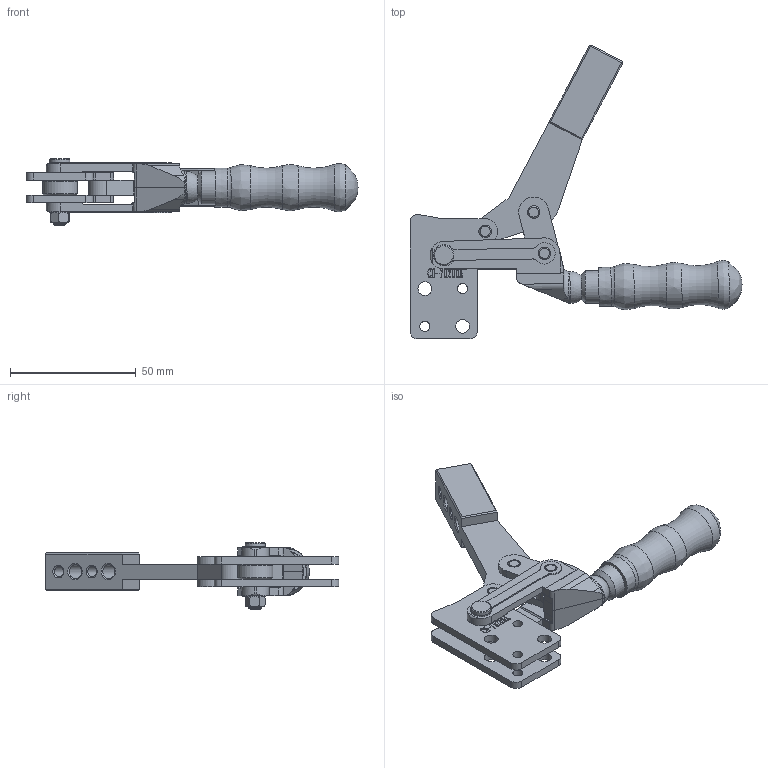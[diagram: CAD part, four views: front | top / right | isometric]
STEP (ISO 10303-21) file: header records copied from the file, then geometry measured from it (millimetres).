
FILE_DESCRIPTION(/* description */ ('STEP AP203'),/* implementation_level */ '2;1');
FILE_NAME(/* name */ 'E:\CAD_CLAMPS\Heavy duty weldables\CH-70200A_DODAC\CH-70200A_OTWARTY.stp',/* time_stamp */ '2019-03-11T14:19:23+01:00',/* author */ ('Admin'),/* organization */ ('Î¢ÈíÖÐ¹ú'),/* preprocessor_version */ 'ST-DEVELOPER v17.2',/* originating_system */ 'Autodesk Inventor 2019',/* authorisation */ '');
FILE_SCHEMA (('AUTOMOTIVE_DESIGN { 1 0 10303 214 3 1 1 }'));
Products named in the file (13): CH-70200A_OTWARTY; µ××ù·´_Ä¬ÈÏ; ÂÝ¸Ë_Ä¬ÈÏ; ³¤Öá_Ä¬ÈÏ; m5ÂÝÄ¸_Ä¬ÈÏ; Ñ¹°Ñ_Ä¬ÈÏ; ÊÖ±ú_Ä¬ÈÏ; ÊÖ±úÌ×_Ä¬ÈÏ; ti_Ä¬ÈÏ; ¸ôÌ×_Ä¬ÈÏ; µ××ùÕýÃæ_Ä¬È
Ï; ¶ÎÖá_Ä¬ÈÏ; Á¬¸Ë_Ä¬ÈÏ
Assembly tree (14 placements, depth 2):
  CH-70200A_OTWARTY
    µ××ù·´_Ä¬ÈÏ
    ÂÝ¸Ë_Ä¬ÈÏ
    ³¤Öá_Ä¬ÈÏ
    m5ÂÝÄ¸_Ä¬ÈÏ
    ¶ÎÖá_Ä¬ÈÏ  x2
    Á¬¸Ë_Ä¬ÈÏ  x2
    Ñ¹°Ñ_Ä¬ÈÏ
    ÊÖ±ú_Ä¬ÈÏ
    ÊÖ±úÌ×_Ä¬ÈÏ
    ti_Ä¬ÈÏ
    ¸ôÌ×_Ä¬ÈÏ
    µ××ùÕýÃæ_Ä¬È
Ï
Bounding box: 132.11 x 116.9 x 26.5 mm (x, y, z)
Volume: 43660.7 mm3; surface area: 30049.9 mm2
Topology: 15 solids, 15 shells, 922 faces, 2567 edges, 1701 vertices
Faces by surface type: plane 588, cylinder 193, bspline 89, cone 42, torus 9, sphere 1
Full cylindrical faces by diameter (mm): 0.399 x1, 2.5 x1, 4 x6, 5 x39, 5.2 x1, 5.5 x6, 8 x1, 13 x1, 14 x1
Entity records: 43963 total; most frequent: CARTESIAN_POINT 20266, ORIENTED_EDGE 5062, DIRECTION 4598, EDGE_CURVE 2531, VERTEX_POINT 1677, AXIS2_PLACEMENT_3D 1538, LINE 1522, VECTOR 1522
